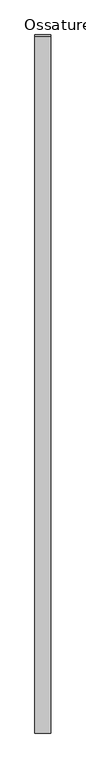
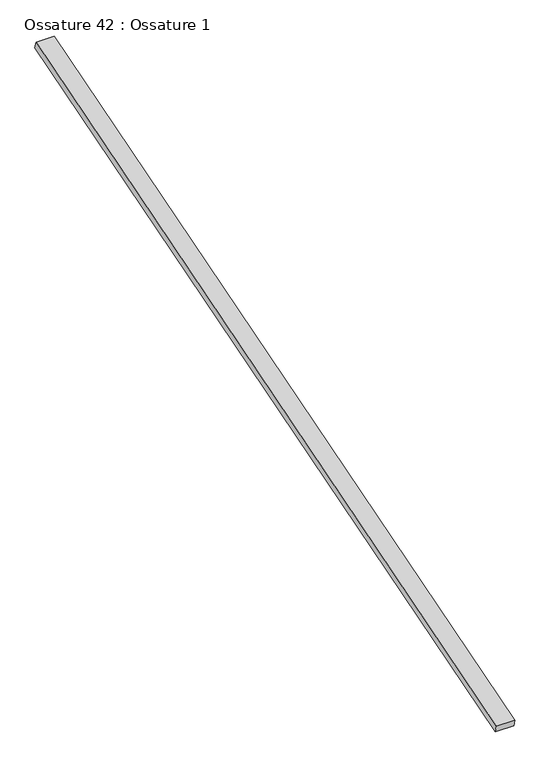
"""IFC4 building model written with IfcOpenShell, lengths in millimetres: beam geometry, Ossature 42 : Ossature 1."""

from ifc_helpers import new_model, si_unit, frame, origin, place, context, project, spatial, polyline, outline, extrude, source, transform, mapped, element, save


def ossature_42_ossature_1_002d62a0(model_context):
    return source(origin(), model_context, "Body", "SweptSolid", [
        extrude(outline(polyline([(0.0, 0.0), (0.0, -4543.0299679), (-100.0, -4543.0299679), (-100.0, 0.0), (0.0, 0.0)])), frame((10303.2466393, -833.3913565, 8153.6336115), z_axis=(0.0, -0.28734788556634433, 0.9578262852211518), x_axis=(-1.0, 0.0, 0.0)), (0.0, 0.0, 1.0), 40.0),
    ])


if __name__ == "__main__":
    model = new_model("IFC4")
    model_context = context("Model", 3, world=origin())
    ifc_project = project(units=[si_unit("LENGTHUNIT", "METRE", prefix="MILLI")], contexts=[model_context])
    site = spatial("IfcSite", under=ifc_project)
    building = spatial("IfcBuilding", under=site)
    placement = place(None, origin())
    ossature_42_ossature_1_shape = ossature_42_ossature_1_002d62a0(model_context)
    element("IfcBeam", 1, ObjectType="Ossature 42 : Ossature 1", at=placement, inside=building, context=model_context, shape_type="MappedRepresentation", body=[
        mapped(ossature_42_ossature_1_shape, transform((0.0, 0.0, 0.0), x_axis=(1.0, 0.0, 0.0), y_axis=(0.0, 1.0, 0.0), z_axis=(0.0, 0.0, 1.0))),
    ])
    save(model, "model.ifc")
